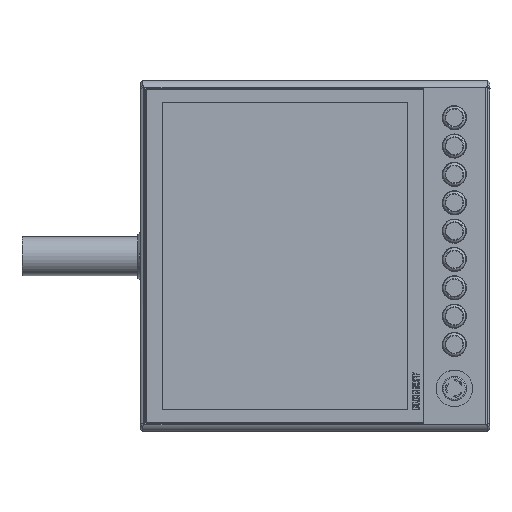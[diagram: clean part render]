
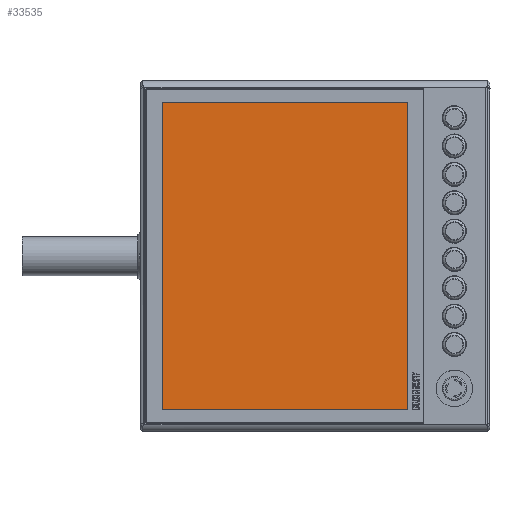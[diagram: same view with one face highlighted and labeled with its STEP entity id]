
A CAD part, top view. The second image highlights one B-rep face of the part: STEP entity #33535.
In plain terms, the highlighted planar face has unit normal (0, 0, 1).
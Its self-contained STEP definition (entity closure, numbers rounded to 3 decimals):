
#2882=LINE($,#51815,#5664);
#2902=LINE($,#51871,#5684);
#2905=LINE($,#51877,#5687);
#2908=LINE($,#51882,#5690);
#5664=VECTOR($,#41154,303.1);
#5684=VECTOR($,#41208,378.32);
#5687=VECTOR($,#41213,303.1);
#5690=VECTOR($,#41218,378.32);
#8152=FACE_OUTER_BOUND($,#10273,.T.);
#10273=EDGE_LOOP($,(#23749,#23750,#23751,#23752));
#14111=VERTEX_POINT($,#51813);
#14112=VERTEX_POINT($,#51814);
#14131=VERTEX_POINT($,#51870);
#14133=VERTEX_POINT($,#51876);
#17678=EDGE_CURVE($,#14111,#14112,#2882,.T.);
#17706=EDGE_CURVE($,#14131,#14111,#2902,.T.);
#17709=EDGE_CURVE($,#14133,#14131,#2905,.T.);
#17712=EDGE_CURVE($,#14112,#14133,#2908,.T.);
#23749=ORIENTED_EDGE($,*,*,#17678,.F.);
#23750=ORIENTED_EDGE($,*,*,#17706,.F.);
#23751=ORIENTED_EDGE($,*,*,#17709,.F.);
#23752=ORIENTED_EDGE($,*,*,#17712,.F.);
#30205=PLANE($,#35934);
#33535=ADVANCED_FACE($,(#8152),#30205,.T.);
#35934=AXIS2_PLACEMENT_3D($,#51884,#41220,#41221);
#41154=DIRECTION($,(1.,0.,0.));
#41208=DIRECTION($,(0.,1.,0.));
#41213=DIRECTION($,(-1.,0.,0.));
#41218=DIRECTION($,(0.,-1.,0.));
#41220=DIRECTION('center_axis',(0.,0.,
1.));
#41221=DIRECTION('ref_axis',(1.,0.,0.));
#51813=CARTESIAN_POINT('',(-151.55,189.16,27.3));
#51814=CARTESIAN_POINT('',(151.55,189.16,27.3));
#51815=CARTESIAN_POINT($,(75.775,189.16,27.3));
#51870=CARTESIAN_POINT('',(-151.55,-189.16,27.3));
#51871=CARTESIAN_POINT($,(-151.55,94.58,27.3));
#51876=CARTESIAN_POINT('',(151.55,-189.16,27.3));
#51877=CARTESIAN_POINT($,(-75.775,-189.16,27.3));
#51882=CARTESIAN_POINT($,(151.55,-94.58,27.3));
#51884=CARTESIAN_POINT('Origin',(0.,0.,
27.3));
